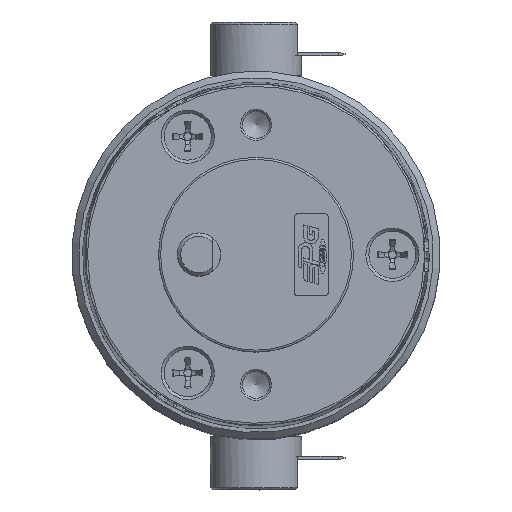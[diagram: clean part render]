
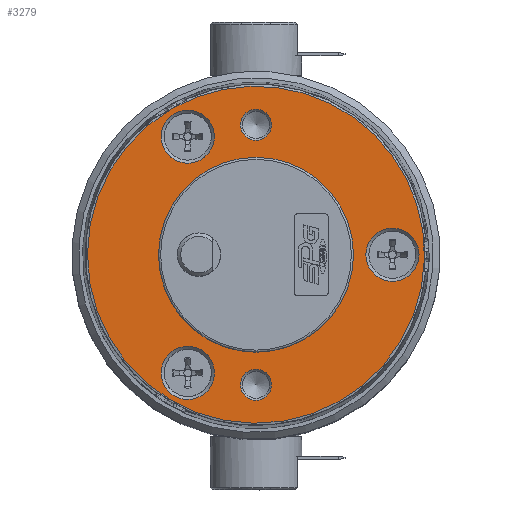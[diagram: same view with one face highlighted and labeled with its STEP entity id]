
A CAD part, top view. The second image highlights one B-rep face of the part: STEP entity #3279.
In plain terms, the highlighted planar face has unit normal (0, 0, 1).
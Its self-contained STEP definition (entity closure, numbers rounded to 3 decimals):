
#3193=CARTESIAN_POINT('',(0.,16.769,113.864));
#3194=VERTEX_POINT('',#3193);
#3195=CARTESIAN_POINT('',(0.,19.05,113.864));
#3196=DIRECTION('',(0.0,0.0,1.0));
#3197=DIRECTION('',(0.0,1.0,0.0));
#3198=AXIS2_PLACEMENT_3D('',#3195,#3196,#3197);
#3199=CIRCLE('',#3198,2.281);
#3200=EDGE_CURVE('',#3194,#3194,#3199,.T.);
#3205=CARTESIAN_POINT('',(0.,0.,113.864));
#3206=DIRECTION('',(0.0,0.0,-1.0));
#3207=DIRECTION('',(1.0,0.0,0.0));
#3208=AXIS2_PLACEMENT_3D('',#3205,#3206,#3207);
#3209=PLANE('',#3208);
#3210=CARTESIAN_POINT('',(-12.352,21.394,113.864));
#3211=VERTEX_POINT('',#3210);
#3212=CARTESIAN_POINT('',(0.,0.,113.864));
#3213=DIRECTION('',(0.,0.,-1.0));
#3214=DIRECTION('',(0.5,-0.866,0.));
#3215=AXIS2_PLACEMENT_3D('',#3212,#3213,#3214);
#3216=CIRCLE('',#3215,24.704);
#3217=EDGE_CURVE('',#3211,#3211,#3216,.T.);
#3218=ORIENTED_EDGE('',*,*,#3217,.F.);
#3219=EDGE_LOOP('',(#3218));
#3220=FACE_OUTER_BOUND('',#3219,.T.);
#3221=CARTESIAN_POINT('',(0.,-21.331,113.864));
#3222=VERTEX_POINT('',#3221);
#3223=CARTESIAN_POINT('',(0.,-19.05,113.864));
#3224=DIRECTION('',(0.0,0.0,1.0));
#3225=DIRECTION('',(0.0,1.0,0.0));
#3226=AXIS2_PLACEMENT_3D('',#3223,#3224,#3225);
#3227=CIRCLE('',#3226,2.281);
#3228=EDGE_CURVE('',#3222,#3222,#3227,.T.);
#3229=ORIENTED_EDGE('',*,*,#3228,.F.);
#3230=EDGE_LOOP('',(#3229));
#3231=FACE_BOUND('',#3230,.T.);
#3232=CARTESIAN_POINT('',(0.,-14.288,113.864));
#3233=VERTEX_POINT('',#3232);
#3234=CARTESIAN_POINT('',(0.,0.,113.864));
#3235=DIRECTION('',(0.0,0.0,-1.0));
#3236=DIRECTION('',(0.0,1.0,0.0));
#3237=AXIS2_PLACEMENT_3D('',#3234,#3235,#3236);
#3238=CIRCLE('',#3237,14.287);
#3239=EDGE_CURVE('',#3233,#3233,#3238,.T.);
#3240=ORIENTED_EDGE('',*,*,#3239,.T.);
#3241=EDGE_LOOP('',(#3240));
#3242=FACE_BOUND('',#3241,.T.);
#3243=CARTESIAN_POINT('',(23.9,0.,113.864));
#3244=VERTEX_POINT('',#3243);
#3245=CARTESIAN_POINT('',(20.,0.,113.864));
#3246=DIRECTION('',(0.0,0.0,-1.0));
#3247=DIRECTION('',(1.0,0.0,0.0));
#3248=AXIS2_PLACEMENT_3D('',#3245,#3246,#3247);
#3249=CIRCLE('',#3248,3.9);
#3250=EDGE_CURVE('',#3244,#3244,#3249,.T.);
#3251=ORIENTED_EDGE('',*,*,#3250,.T.);
#3252=EDGE_LOOP('',(#3251));
#3253=FACE_BOUND('',#3252,.T.);
#3254=CARTESIAN_POINT('',(-11.95,20.698,113.864));
#3255=VERTEX_POINT('',#3254);
#3256=CARTESIAN_POINT('',(-10.,17.321,113.864));
#3257=DIRECTION('',(0.,0.,-1.0));
#3258=DIRECTION('',(-0.5,0.866,0.));
#3259=AXIS2_PLACEMENT_3D('',#3256,#3257,#3258);
#3260=CIRCLE('',#3259,3.9);
#3261=EDGE_CURVE('',#3255,#3255,#3260,.T.);
#3262=ORIENTED_EDGE('',*,*,#3261,.T.);
#3263=EDGE_LOOP('',(#3262));
#3264=FACE_BOUND('',#3263,.T.);
#3265=CARTESIAN_POINT('',(-11.95,-20.698,113.864));
#3266=VERTEX_POINT('',#3265);
#3267=CARTESIAN_POINT('',(-10.,-17.321,113.864));
#3268=DIRECTION('',(0.,0.,-1.0));
#3269=DIRECTION('',(-0.5,-0.866,0.));
#3270=AXIS2_PLACEMENT_3D('',#3267,#3268,#3269);
#3271=CIRCLE('',#3270,3.9);
#3272=EDGE_CURVE('',#3266,#3266,#3271,.T.);
#3273=ORIENTED_EDGE('',*,*,#3272,.T.);
#3274=EDGE_LOOP('',(#3273));
#3275=FACE_BOUND('',#3274,.T.);
#3276=ORIENTED_EDGE('',*,*,#3200,.F.);
#3277=EDGE_LOOP('',(#3276));
#3278=FACE_BOUND('',#3277,.T.);
#3279=ADVANCED_FACE('',(#3220,#3231,#3242,#3253,#3264,#3275,#3278),#3209,.F.);
